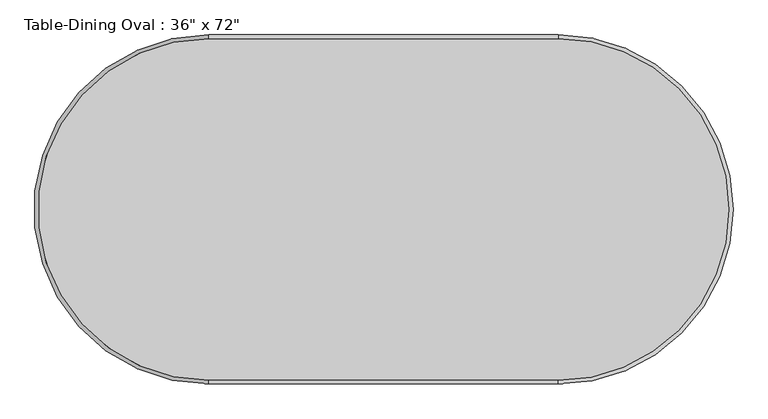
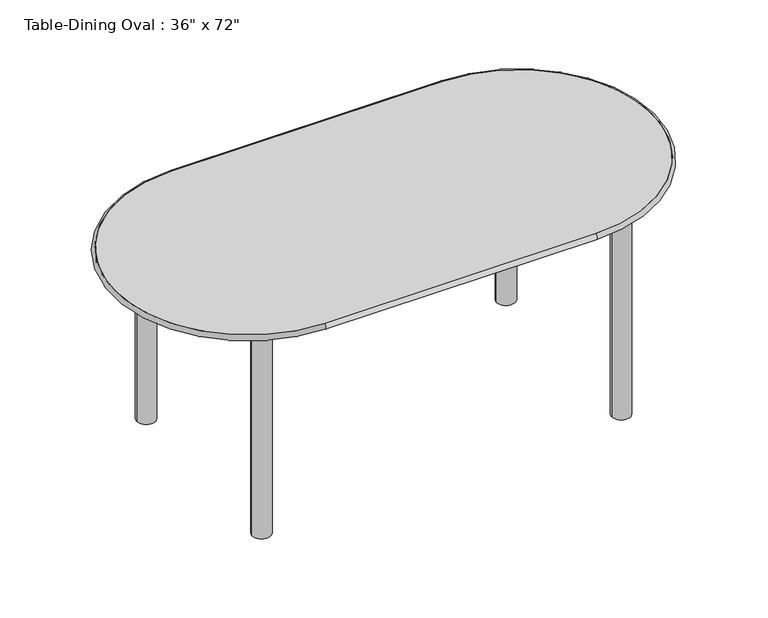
"""IFC4 building model written with IfcOpenShell, lengths in millimetres: furniture geometry."""

from ifc_helpers import new_model, si_unit, point, frame, frame_2d, origin, origin_with_axes, place, context, project, spatial, polyline, circle_curve, ellipse_curve, trimmed, segment, composite_curve, outline, extrude, source, transform, mapped, element, save
from ifc_brep_helpers import plane_surface, cylinder_surface, revolved_surface, advanced_brep


def furniture_cc351095(model_context):
    return source(origin(), model_context, "Body", "SolidModel", [
        advanced_brep(
        [(-859.0196721, 805.7733607, 762.0), (55.3803279, 805.7733607, 762.0), (55.3803279, 805.7733607, 742.95), (-859.0196721, 805.7733607, 742.95), (55.3803279, -89.5766393, 762.0), (55.3803279, -89.5766393, 742.95), (-859.0196721, -89.5766393, 762.0), (-859.0196721, -89.5766393, 742.95)],
        [
            (0, 1),
            (1, 2, circle_curve(frame((55.3803279, 805.7733607, 752.475), z_axis=(-1.0, 0.0, 0.0), x_axis=(0.0, -1.0, 0.0)), 9.525)),
            (2, 3),
            (3, 0, circle_curve(frame((-859.0196721, 805.7733607, 752.475), z_axis=(1.0, 0.0, 0.0), x_axis=(0.0, -1.0, 0.0)), 9.525)),
            (2, 1),
            (0, 3),
            (4, 5, circle_curve(frame((55.3803279, -89.5766393, 752.475), z_axis=(1.0, 0.0, 0.0), x_axis=(0.0, 1.0, 0.0)), 9.525)),
            (5, 2, circle_curve(frame((55.3803279, 358.0983607, 742.95), z_axis=(0.0, 0.0, 1.0), x_axis=(0.0, 1.0, 0.0)), 447.675)),
            (1, 4, circle_curve(frame((55.3803279, 358.0983607, 762.0), z_axis=(0.0, 0.0, -1.0), x_axis=(0.0, 1.0, 0.0)), 447.675)),
            (5, 4),
            (4, 6),
            (6, 7, circle_curve(frame((-859.0196721, -89.5766393, 752.475), z_axis=(1.0, 0.0, 0.0), x_axis=(0.0, 1.0, 0.0)), 9.525)),
            (7, 5),
            (7, 6),
            (3, 7, circle_curve(frame((-859.0196721, 358.0983607, 742.95), z_axis=(0.0, 0.0, 1.0), x_axis=(0.0, -1.0, 0.0)), 447.675)),
            (6, 0, circle_curve(frame((-859.0196721, 358.0983607, 762.0), z_axis=(0.0, 0.0, -1.0), x_axis=(0.0, -1.0, 0.0)), 447.675)),
        ],
        [
            cylinder_surface(frame((-859.0196721, 805.7733607, 752.475), z_axis=(-1.0, 0.0, 0.0), x_axis=(0.0, -1.0, 0.0)), 9.525),
            plane_surface(frame((-859.0196721, 805.7733607, 762.0), z_axis=(0.0, -1.0, 0.0), x_axis=(1.0, 0.0, 0.0))),
            revolved_surface(trimmed(ellipse_curve(frame((55.3803279, 805.7733607, 752.475), z_axis=(1.0, 0.0, 0.0), x_axis=(0.0, -1.0, 0.0)), 9.525, 9.525), [point((55.3803279, 805.7733607, 742.95))], [point((55.3803279, 805.7733607, 762.0))], True, "CARTESIAN"), (55.3803279, 358.0983607, 0.0), (0.0, 0.0, 1.0)),
            revolved_surface(polyline([(55.3803279, 805.7733607, 762.0), (55.3803279, 805.7733607, 742.95)]), (55.3803279, 358.0983607, 0.0), (0.0, 0.0, 1.0)),
            cylinder_surface(frame((55.3803279, -89.5766393, 752.475), z_axis=(1.0, 0.0, 0.0), x_axis=(0.0, 1.0, 0.0)), 9.525),
            plane_surface(frame((55.3803279, -89.5766393, 762.0), z_axis=(0.0, 1.0, 0.0), x_axis=(-1.0, 0.0, 0.0))),
            revolved_surface(trimmed(ellipse_curve(frame((-859.0196721, -89.5766393, 752.475), z_axis=(-1.0, 0.0, 0.0), x_axis=(0.0, 1.0, 0.0)), 9.525, 9.525), [point((-859.0196721, -89.5766393, 742.95))], [point((-859.0196721, -89.5766393, 762.0))], True, "CARTESIAN"), (-859.0196721, 358.0983607, 0.0), (0.0, 0.0, 1.0)),
            revolved_surface(polyline([(-859.0196721, -89.57663930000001, 762.0), (-859.0196721, -89.57663930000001, 742.95)]), (-859.0196721, 358.0983607, 0.0), (0.0, 0.0, 1.0)),
        ],
        [
            (0, [[1, 2, 3, 4]]),
            (1, [[-3, 5, -1, 6]]),
            (2, [[7, 8, -2, 9]]),
            (3, [[10, -9, -5, -8]]),
            (4, [[11, 12, 13, -7]]),
            (5, [[-13, 14, -11, -10]]),
            (6, [[-4, 15, -12, 16]]),
            (7, [[-6, -16, -14, -15]]),
        ],
    ),
        extrude(outline(composite_curve([segment(trimmed(circle_curve(frame_2d((-1008.2446721, 21.5483607)), 31.75), [point((-1039.9946721, 21.5483607))], [point((-976.4946721, 21.5483607))], False, "CARTESIAN"), True, "CONTINUOUS"), segment(trimmed(circle_curve(frame_2d((-1008.2446721, 21.5483607)), 31.75), [point((-976.4946721, 21.5483607))], [point((-1039.9946721, 21.5483607))], False, "CARTESIAN"), True, "CONTINUOUS")], self_intersect=False)), origin_with_axes(), (0.0, 0.0, 1.0), 742.95),
        extrude(outline(composite_curve([segment(trimmed(circle_curve(frame_2d((-1008.2446721, 694.6483607)), 31.75), [point((-1039.9946721, 694.6483607))], [point((-976.4946721, 694.6483607))], False, "CARTESIAN"), True, "CONTINUOUS"), segment(trimmed(circle_curve(frame_2d((-1008.2446721, 694.6483607)), 31.75), [point((-976.4946721, 694.6483607))], [point((-1039.9946721, 694.6483607))], False, "CARTESIAN"), True, "CONTINUOUS")], self_intersect=False)), origin_with_axes(), (0.0, 0.0, 1.0), 742.95),
        extrude(outline(composite_curve([segment(trimmed(circle_curve(frame_2d((204.6053279, 21.5483607)), 31.75), [point((172.8553279, 21.5483607))], [point((236.3553279, 21.5483607))], False, "CARTESIAN"), True, "CONTINUOUS"), segment(trimmed(circle_curve(frame_2d((204.6053279, 21.5483607)), 31.75), [point((236.3553279, 21.5483607))], [point((172.8553279, 21.5483607))], False, "CARTESIAN"), True, "CONTINUOUS")], self_intersect=False)), origin_with_axes(), (0.0, 0.0, 1.0), 742.95),
        extrude(outline(composite_curve([segment(trimmed(circle_curve(frame_2d((204.6053279, 694.6483607)), 31.75), [point((172.8553279, 694.6483607))], [point((236.3553279, 694.6483607))], False, "CARTESIAN"), True, "CONTINUOUS"), segment(trimmed(circle_curve(frame_2d((204.6053279, 694.6483607)), 31.75), [point((236.3553279, 694.6483607))], [point((172.8553279, 694.6483607))], False, "CARTESIAN"), True, "CONTINUOUS")], self_intersect=False)), origin_with_axes(), (0.0, 0.0, 1.0), 742.95),
        extrude(outline(polyline([(223.6553279, 2.4983607), (-1027.2946721, 2.4983607), (-1027.2946721, 713.6983607), (223.6553279, 713.6983607), (223.6553279, 2.4983607)]), holes=[polyline([(204.6053279, 21.5483607), (204.6053279, 694.6483607), (-1008.2446721, 694.6483607), (-1008.2446721, 21.5483607), (204.6053279, 21.5483607)])]), frame((0.0, 0.0, 692.15), z_axis=(0.0, 0.0, 1.0), x_axis=(1.0, 0.0, 0.0)), (0.0, 0.0, 1.0), 50.8),
        extrude(outline(composite_curve([segment(trimmed(circle_curve(frame_2d((-859.0196721, 358.0983607)), 447.675), [point((-859.0196721, -89.5766393))], [point((-1306.6946721, 358.0983607))], False, "CARTESIAN"), True, "CONTINUOUS"), segment(trimmed(circle_curve(frame_2d((-859.0196721, 358.0983607)), 447.675), [point((-1306.6946721, 358.0983607))], [point((-859.0196721, 805.7733607))], False, "CARTESIAN"), True, "CONTINUOUS"), segment(polyline([(-859.0196721, 805.7733607), (55.3803279, 805.7733607)]), True, "CONTINUOUS"), segment(trimmed(circle_curve(frame_2d((55.3803279, 358.0983607)), 447.675), [point((55.3803279, 805.7733607))], [point((503.0553279, 358.0983607))], False, "CARTESIAN"), True, "CONTINUOUS"), segment(trimmed(circle_curve(frame_2d((55.3803279, 358.0983607)), 447.675), [point((503.0553279, 358.0983607))], [point((55.3803279, -89.5766393))], False, "CARTESIAN"), True, "CONTINUOUS"), segment(polyline([(55.3803279, -89.5766393), (-859.0196721, -89.5766393)]), True, "CONTINUOUS")], self_intersect=False)), frame((0.0, 0.0, 742.95), z_axis=(0.0, 0.0, 1.0), x_axis=(1.0, 0.0, 0.0)), (0.0, 0.0, 1.0), 19.05),
    ])


if __name__ == "__main__":
    model = new_model("IFC4")
    model_context = context("Model", 3, world=origin())
    ifc_project = project(units=[si_unit("LENGTHUNIT", "METRE", prefix="MILLI")], contexts=[model_context])
    site = spatial("IfcSite", under=ifc_project)
    building = spatial("IfcBuilding", under=site)
    placement = place(None, origin())
    furniture_shape = furniture_cc351095(model_context)
    element("IfcFurniture", 1, ObjectType="Table-Dining Oval : 36\" x 72\"", at=placement, inside=building, context=model_context, shape_type="MappedRepresentation", body=[
        mapped(furniture_shape, transform((0.0, 0.0, 0.0), x_axis=(1.0, 0.0, 0.0), y_axis=(0.0, 1.0, 0.0), z_axis=(0.0, 0.0, 1.0))),
    ])
    save(model, "model.ifc")
